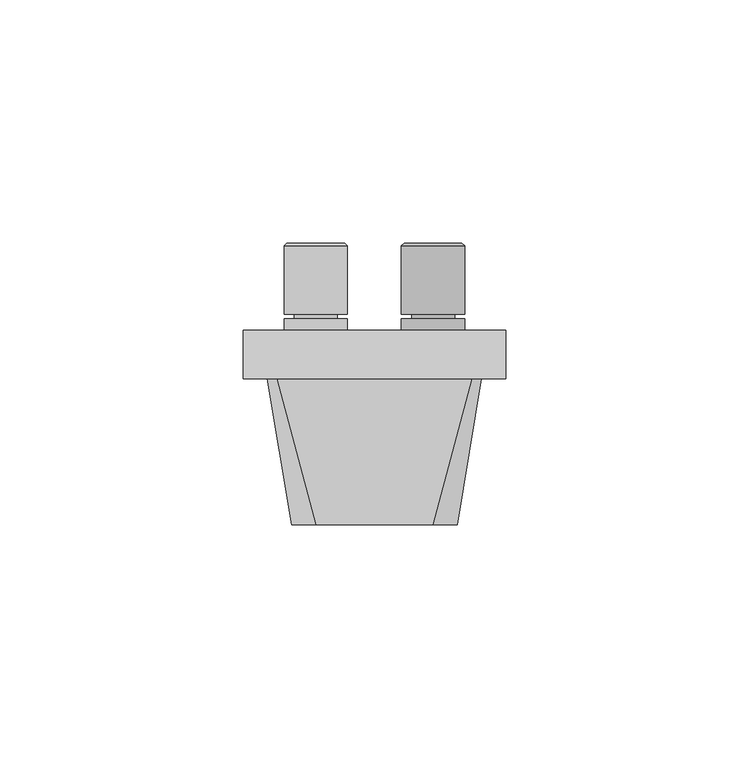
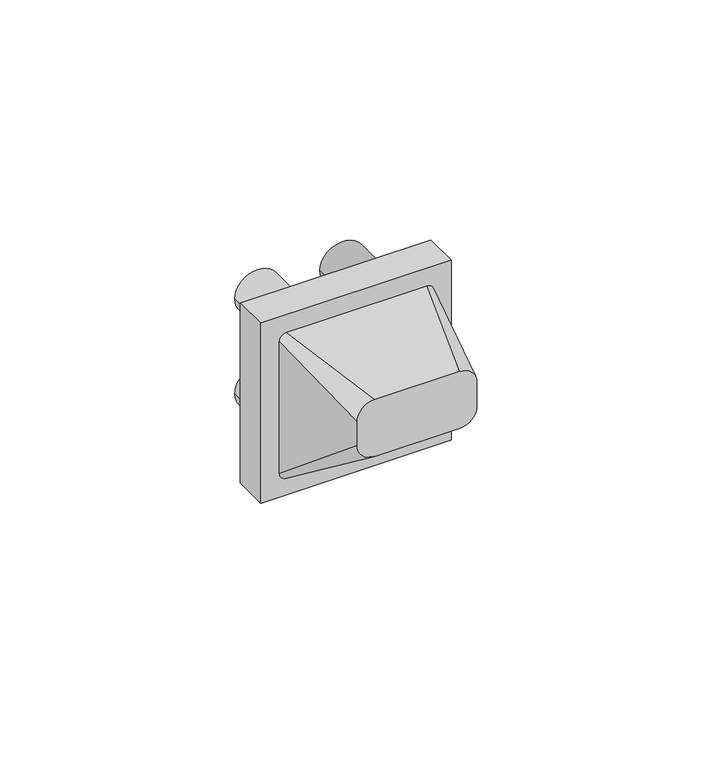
"""IFC4 building model written with IfcOpenShell, lengths in millimetres: proxy geometry, IEK_Brite_Механизм розетки мультимедийной : АС_РА10-БрА."""

from ifc_helpers import new_model, si_unit, frame, origin, place, context, project, spatial, polyline, circle_curve, source, transform, mapped, element, save
from ifc_brep_helpers import plane_surface, cylinder_surface, revolved_surface, spline_surface, advanced_brep


def electrical_fixtures_43cedca7(model_context):
    return source(origin(), model_context, "Body", "AdvancedBrep", [
        advanced_brep(
        [(-27.0, 10.0, 27.0), (27.0, 10.0, 27.0), (27.0, 10.0, -27.0), (-27.0, 10.0, -27.0), (19.0620735, 10.0, -13.75), (5.0620735, 10.0, -13.75), (-5.0620735, 10.0, -13.75), (-19.0620735, 10.0, -13.75), (19.0620735, 10.0, 14.7159622), (5.0620735, 10.0, 14.7159622), (-5.0620735, 10.0, 14.7159622), (-19.0620735, 10.0, 14.7159622), (-27.0, 0.0, 27.0), (-27.0, 0.0, -27.0), (27.0, 0.0, -27.0), (27.0, 0.0, 27.0), (5.0620735, 3.865818, 14.7159622), (19.0620735, 3.865818, 14.7159622), (-19.0620735, 3.865818, 14.7159622), (-5.0620735, 3.865818, 14.7159622), (5.0620735, 3.865818, -13.75), (19.0620735, 3.865818, -13.75), (-19.0620735, 3.865818, -13.75), (-5.0620735, 3.865818, -13.75)],
        [
            (0, 1),
            (1, 2),
            (2, 3),
            (3, 0),
            (4, 5, circle_curve(frame((12.0620735, 10.0, -13.75), z_axis=(0.0, -1.0, 0.0), x_axis=(1.0, 0.0, 0.0)), 7.0)),
            (5, 4, circle_curve(frame((12.0620735, 10.0, -13.75), z_axis=(0.0, -1.0, 0.0), x_axis=(1.0, 0.0, 0.0)), 7.0)),
            (6, 7, circle_curve(frame((-12.0620735, 10.0, -13.75), z_axis=(0.0, -1.0, 0.0), x_axis=(1.0, 0.0, 0.0)), 7.0)),
            (7, 6, circle_curve(frame((-12.0620735, 10.0, -13.75), z_axis=(0.0, -1.0, 0.0), x_axis=(1.0, 0.0, 0.0)), 7.0)),
            (8, 9, circle_curve(frame((12.0620735, 10.0, 14.7159622), z_axis=(0.0, -1.0, 0.0), x_axis=(1.0, 0.0, 0.0)), 7.0)),
            (9, 8, circle_curve(frame((12.0620735, 10.0, 14.7159622), z_axis=(0.0, -1.0, 0.0), x_axis=(1.0, 0.0, 0.0)), 7.0)),
            (10, 11, circle_curve(frame((-12.0620735, 10.0, 14.7159622), z_axis=(0.0, -1.0, 0.0), x_axis=(1.0, 0.0, 0.0)), 7.0)),
            (11, 10, circle_curve(frame((-12.0620735, 10.0, 14.7159622), z_axis=(0.0, -1.0, 0.0), x_axis=(1.0, 0.0, 0.0)), 7.0)),
            (12, 13),
            (13, 14),
            (14, 15),
            (15, 12),
            (3, 13),
            (12, 0),
            (2, 14),
            (1, 15),
            (16, 17, circle_curve(frame((12.0620735, 3.865818, 14.7159622), z_axis=(0.0, 1.0, 0.0), x_axis=(1.0, 0.0, 0.0)), 7.0)),
            (17, 16, circle_curve(frame((12.0620735, 3.865818, 14.7159622), z_axis=(0.0, 1.0, 0.0), x_axis=(1.0, 0.0, 0.0)), 7.0)),
            (18, 19, circle_curve(frame((-12.0620735, 3.865818, 14.7159622), z_axis=(0.0, 1.0, 0.0), x_axis=(1.0, 0.0, 0.0)), 7.0)),
            (19, 18, circle_curve(frame((-12.0620735, 3.865818, 14.7159622), z_axis=(0.0, 1.0, 0.0), x_axis=(1.0, 0.0, 0.0)), 7.0)),
            (20, 21, circle_curve(frame((12.0620735, 3.865818, -13.75), z_axis=(0.0, 1.0, 0.0), x_axis=(1.0, 0.0, 0.0)), 7.0)),
            (21, 20, circle_curve(frame((12.0620735, 3.865818, -13.75), z_axis=(0.0, 1.0, 0.0), x_axis=(1.0, 0.0, 0.0)), 7.0)),
            (22, 23, circle_curve(frame((-12.0620735, 3.865818, -13.75), z_axis=(0.0, 1.0, 0.0), x_axis=(1.0, 0.0, 0.0)), 7.0)),
            (23, 22, circle_curve(frame((-12.0620735, 3.865818, -13.75), z_axis=(0.0, 1.0, 0.0), x_axis=(1.0, 0.0, 0.0)), 7.0)),
            (16, 9),
            (8, 17),
            (18, 11),
            (10, 19),
            (20, 5),
            (4, 21),
            (22, 7),
            (6, 23),
        ],
        [
            plane_surface(frame((-27.0, 10.0, -27.0), z_axis=(0.0, 1.0, 0.0), x_axis=(0.0, 0.0, 1.0))),
            plane_surface(frame((-27.0, 0.0, -27.0), z_axis=(0.0, -1.0, 0.0), x_axis=(0.0, 0.0, -1.0))),
            plane_surface(frame((-27.0, 0.0, 27.0), z_axis=(-1.0, 0.0, 0.0), x_axis=(0.0, 1.0, 0.0))),
            plane_surface(frame((-27.0, 0.0, -27.0), z_axis=(0.0, 0.0, -1.0), x_axis=(0.0, 1.0, 0.0))),
            plane_surface(frame((27.0, 0.0, -27.0), z_axis=(1.0, 0.0, 0.0), x_axis=(0.0, 1.0, 0.0))),
            plane_surface(frame((27.0, 0.0, 27.0), z_axis=(0.0, 0.0, 1.0), x_axis=(0.0, 1.0, 0.0))),
            plane_surface(frame((19.0620735, 3.865818, 14.7159622), z_axis=(0.0, 1.0, 0.0), x_axis=(0.0, 0.0, 1.0))),
            revolved_surface(polyline([(19.0620735, 10.0, 14.7159622), (19.0620735, 3.865818, 14.7159622)]), (12.0620735, 3.865818, 14.7159622), (0.0, 1.0, 0.0)),
            revolved_surface(polyline([(-5.0620735, 10.0, 14.7159622), (-5.0620735, 3.865818, 14.7159622)]), (-12.0620735, 10.0, 14.7159622), (0.0, 1.0, 0.0)),
            revolved_surface(polyline([(19.0620735, 10.0, -13.75), (19.0620735, 3.865818, -13.75)]), (12.0620735, 10.0, -13.75), (0.0, 1.0, 0.0)),
            revolved_surface(polyline([(-5.0620735, 10.0, -13.75), (-5.0620735, 3.865818, -13.75)]), (-12.0620735, 10.0, -13.75), (0.0, 1.0, 0.0)),
        ],
        [
            (0, [[1, 2, 3, 4], [5, 6], [7, 8], [9, 10], [11, 12]]),
            (1, [[13, 14, 15, 16]]),
            (2, [[-4, 17, -13, 18]]),
            (3, [[-3, 19, -14, -17]]),
            (4, [[-2, 20, -15, -19]]),
            (5, [[-1, -18, -16, -20]]),
            (6, [[21, 22]]),
            (6, [[23, 24]]),
            (6, [[25, 26]]),
            (6, [[27, 28]]),
            (7, [[-21, 29, -9, 30]]),
            (7, [[-22, -30, -10, -29]]),
            (8, [[-23, 31, -11, 32]]),
            (8, [[-24, -32, -12, -31]]),
            (9, [[-25, 33, -5, 34]]),
            (9, [[-26, -34, -6, -33]]),
            (10, [[-27, 35, -7, 36]]),
            (10, [[-28, -36, -8, -35]]),
        ],
    ),
        advanced_brep(
        [(-8.6401103, 10.0, -13.75), (-15.4840366, 10.0, -13.75), (-12.0620735, 10.0, -13.75), (-8.6401103, 27.9463072, -13.75), (-15.4840366, 27.9463072, -13.75), (-6.1425627, 27.9463072, -13.75), (-17.9815842, 27.9463072, -13.75), (-5.5708837, 27.3746282, -13.75), (-18.5532632, 27.3746282, -13.75), (-5.5708837, 13.294806, -13.75), (-18.5532632, 13.294806, -13.75), (-7.6404981, 13.294806, -13.75), (-16.4836488, 13.294806, -13.75), (-7.6404981, 12.4143578, -13.75), (-16.4836488, 12.4143578, -13.75), (-5.5708837, 12.4143578, -13.75), (-18.5532632, 12.4143578, -13.75), (-5.5708837, 3.865818, -13.75), (-18.5532632, 3.865818, -13.75), (-12.0620735, 3.865818, -13.75)],
        [
            (0, 1, circle_curve(frame((-12.0620735, 10.0, -13.75), z_axis=(0.0, 1.0, 0.0), x_axis=(-1.0, 0.0, 0.0)), 3.4219631)),
            (1, 2),
            (2, 0),
            (1, 0, circle_curve(frame((-12.0620735, 10.0, -13.75), z_axis=(0.0, 1.0, 0.0), x_axis=(-1.0, 0.0, 0.0)), 3.4219631)),
            (3, 4, circle_curve(frame((-12.0620735, 27.9463072, -13.75), z_axis=(0.0, 1.0, 0.0), x_axis=(-1.0, 0.0, 0.0)), 3.4219631)),
            (4, 1),
            (0, 3),
            (4, 3, circle_curve(frame((-12.0620735, 27.9463072, -13.75), z_axis=(0.0, 1.0, 0.0), x_axis=(-1.0, 0.0, 0.0)), 3.4219631)),
            (5, 6, circle_curve(frame((-12.0620735, 27.9463072, -13.75), z_axis=(0.0, 1.0, 0.0), x_axis=(-1.0, 0.0, 0.0)), 5.9195108)),
            (6, 4),
            (3, 5),
            (6, 5, circle_curve(frame((-12.0620735, 27.9463072, -13.75), z_axis=(0.0, 1.0, 0.0), x_axis=(-1.0, 0.0, 0.0)), 5.9195108)),
            (7, 8, circle_curve(frame((-12.0620735, 27.3746282, -13.75), z_axis=(0.0, 1.0, 0.0), x_axis=(-1.0, 0.0, 0.0)), 6.4911898)),
            (8, 6),
            (5, 7),
            (8, 7, circle_curve(frame((-12.0620735, 27.3746282, -13.75), z_axis=(0.0, 1.0, 0.0), x_axis=(-1.0, 0.0, 0.0)), 6.4911898)),
            (9, 10, circle_curve(frame((-12.0620735, 13.294806, -13.75), z_axis=(0.0, 1.0, 0.0), x_axis=(-1.0, 0.0, 0.0)), 6.4911898)),
            (10, 8),
            (7, 9),
            (10, 9, circle_curve(frame((-12.0620735, 13.294806, -13.75), z_axis=(0.0, 1.0, 0.0), x_axis=(-1.0, 0.0, 0.0)), 6.4911898)),
            (11, 12, circle_curve(frame((-12.0620735, 13.294806, -13.75), z_axis=(0.0, 1.0, 0.0), x_axis=(-1.0, 0.0, 0.0)), 4.4215754)),
            (12, 10),
            (9, 11),
            (12, 11, circle_curve(frame((-12.0620735, 13.294806, -13.75), z_axis=(0.0, 1.0, 0.0), x_axis=(-1.0, 0.0, 0.0)), 4.4215754)),
            (13, 14, circle_curve(frame((-12.0620735, 12.4143578, -13.75), z_axis=(0.0, 1.0, 0.0), x_axis=(-1.0, 0.0, 0.0)), 4.4215754)),
            (14, 12),
            (11, 13),
            (14, 13, circle_curve(frame((-12.0620735, 12.4143578, -13.75), z_axis=(0.0, 1.0, 0.0), x_axis=(-1.0, 0.0, 0.0)), 4.4215754)),
            (15, 16, circle_curve(frame((-12.0620735, 12.4143578, -13.75), z_axis=(0.0, 1.0, 0.0), x_axis=(-1.0, 0.0, 0.0)), 6.4911898)),
            (16, 14),
            (13, 15),
            (16, 15, circle_curve(frame((-12.0620735, 12.4143578, -13.75), z_axis=(0.0, 1.0, 0.0), x_axis=(-1.0, 0.0, 0.0)), 6.4911898)),
            (17, 18, circle_curve(frame((-12.0620735, 3.865818, -13.75), z_axis=(0.0, 1.0, 0.0), x_axis=(-1.0, 0.0, 0.0)), 6.4911898)),
            (18, 16),
            (15, 17),
            (18, 17, circle_curve(frame((-12.0620735, 3.865818, -13.75), z_axis=(0.0, 1.0, 0.0), x_axis=(-1.0, 0.0, 0.0)), 6.4911898)),
            (19, 18),
            (17, 19),
        ],
        [
            plane_surface(frame((-12.0620735, 10.0, -13.75), z_axis=(0.0, 1.0, 0.0), x_axis=(-1.0, 0.0, 0.0))),
            revolved_surface(polyline([(-15.4840366, 10.0, -13.75), (-15.4840366, 27.9463072, -13.75)]), (-12.0620735, 3.865818, -13.75), (0.0, -1.0, 0.0)),
            plane_surface(frame((-12.0620735, 27.9463072, -13.75), z_axis=(0.0, 1.0, 0.0), x_axis=(-1.0, 0.0, 0.0))),
            revolved_surface(polyline([(-17.9815842, 27.9463072, -13.75), (-18.5532632, 27.3746282, -13.75)]), (-12.0620735, 3.865818, -13.75), (0.0, -1.0, 0.0)),
            cylinder_surface(frame((-12.0620735, 3.865818, -13.75), z_axis=(0.0, -1.0, 0.0), x_axis=(-1.0, 0.0, 0.0)), 6.4911898),
            plane_surface(frame((-12.0620735, 13.294806, -13.75), z_axis=(0.0, -1.0, 0.0), x_axis=(-1.0, 0.0, 0.0))),
            cylinder_surface(frame((-12.0620735, 3.865818, -13.75), z_axis=(0.0, -1.0, 0.0), x_axis=(-1.0, 0.0, 0.0)), 4.4215754),
            plane_surface(frame((-12.0620735, 12.4143578, -13.75), z_axis=(0.0, 1.0, 0.0), x_axis=(-1.0, 0.0, 0.0))),
            plane_surface(frame((-12.0620735, 3.865818, -13.75), z_axis=(0.0, -1.0, 0.0), x_axis=(-1.0, 0.0, 0.0))),
        ],
        [
            (0, [[1, 2, 3]]),
            (0, [[4, -3, -2]]),
            (1, [[5, 6, -1, 7]]),
            (1, [[8, -7, -4, -6]]),
            (2, [[9, 10, -5, 11]]),
            (2, [[12, -11, -8, -10]]),
            (3, [[13, 14, -9, 15]]),
            (3, [[16, -15, -12, -14]]),
            (4, [[17, 18, -13, 19]]),
            (4, [[20, -19, -16, -18]]),
            (5, [[21, 22, -17, 23]]),
            (5, [[24, -23, -20, -22]]),
            (6, [[25, 26, -21, 27]]),
            (6, [[28, -27, -24, -26]]),
            (7, [[29, 30, -25, 31]]),
            (7, [[32, -31, -28, -30]]),
            (4, [[33, 34, -29, 35]]),
            (4, [[36, -35, -32, -34]]),
            (8, [[37, -33, 38]]),
            (8, [[-38, -36, -37]]),
        ],
    ),
        advanced_brep(
        [(12.0620735, 10.0, -13.75), (15.4840366, 10.0, -13.75), (8.6401103, 10.0, -13.75), (15.4840366, 27.9463072, -13.75), (8.6401103, 27.9463072, -13.75), (17.9815842, 27.9463072, -13.75), (6.1425627, 27.9463072, -13.75), (18.5532632, 27.3746282, -13.75), (5.5708837, 27.3746282, -13.75), (18.5532632, 13.294806, -13.75), (5.5708837, 13.294806, -13.75), (16.4836488, 13.294806, -13.75), (7.6404981, 13.294806, -13.75), (16.4836488, 12.4143578, -13.75), (7.6404981, 12.4143578, -13.75), (18.5532632, 12.4143578, -13.75), (5.5708837, 12.4143578, -13.75), (18.5532632, 3.865818, -13.75), (5.5708837, 3.865818, -13.75), (12.0620735, 3.865818, -13.75)],
        [
            (0, 1),
            (1, 2, circle_curve(frame((12.0620735, 10.0, -13.75), z_axis=(0.0, 1.0, 0.0), x_axis=(1.0, 0.0, 0.0)), 3.4219631)),
            (2, 0),
            (2, 1, circle_curve(frame((12.0620735, 10.0, -13.75), z_axis=(0.0, 1.0, 0.0), x_axis=(1.0, 0.0, 0.0)), 3.4219631)),
            (1, 3),
            (3, 4, circle_curve(frame((12.0620735, 27.9463072, -13.75), z_axis=(0.0, 1.0, 0.0), x_axis=(1.0, 0.0, 0.0)), 3.4219631)),
            (4, 2),
            (4, 3, circle_curve(frame((12.0620735, 27.9463072, -13.75), z_axis=(0.0, 1.0, 0.0), x_axis=(1.0, 0.0, 0.0)), 3.4219631)),
            (3, 5),
            (5, 6, circle_curve(frame((12.0620735, 27.9463072, -13.75), z_axis=(0.0, 1.0, 0.0), x_axis=(1.0, 0.0, 0.0)), 5.9195108)),
            (6, 4),
            (6, 5, circle_curve(frame((12.0620735, 27.9463072, -13.75), z_axis=(0.0, 1.0, 0.0), x_axis=(1.0, 0.0, 0.0)), 5.9195108)),
            (5, 7),
            (7, 8, circle_curve(frame((12.0620735, 27.3746282, -13.75), z_axis=(0.0, 1.0, 0.0), x_axis=(1.0, 0.0, 0.0)), 6.4911898)),
            (8, 6),
            (8, 7, circle_curve(frame((12.0620735, 27.3746282, -13.75), z_axis=(0.0, 1.0, 0.0), x_axis=(1.0, 0.0, 0.0)), 6.4911898)),
            (7, 9),
            (9, 10, circle_curve(frame((12.0620735, 13.294806, -13.75), z_axis=(0.0, 1.0, 0.0), x_axis=(1.0, 0.0, 0.0)), 6.4911898)),
            (10, 8),
            (10, 9, circle_curve(frame((12.0620735, 13.294806, -13.75), z_axis=(0.0, 1.0, 0.0), x_axis=(1.0, 0.0, 0.0)), 6.4911898)),
            (9, 11),
            (11, 12, circle_curve(frame((12.0620735, 13.294806, -13.75), z_axis=(0.0, 1.0, 0.0), x_axis=(1.0, 0.0, 0.0)), 4.4215754)),
            (12, 10),
            (12, 11, circle_curve(frame((12.0620735, 13.294806, -13.75), z_axis=(0.0, 1.0, 0.0), x_axis=(1.0, 0.0, 0.0)), 4.4215754)),
            (11, 13),
            (13, 14, circle_curve(frame((12.0620735, 12.4143578, -13.75), z_axis=(0.0, 1.0, 0.0), x_axis=(1.0, 0.0, 0.0)), 4.4215754)),
            (14, 12),
            (14, 13, circle_curve(frame((12.0620735, 12.4143578, -13.75), z_axis=(0.0, 1.0, 0.0), x_axis=(1.0, 0.0, 0.0)), 4.4215754)),
            (13, 15),
            (15, 16, circle_curve(frame((12.0620735, 12.4143578, -13.75), z_axis=(0.0, 1.0, 0.0), x_axis=(1.0, 0.0, 0.0)), 6.4911898)),
            (16, 14),
            (16, 15, circle_curve(frame((12.0620735, 12.4143578, -13.75), z_axis=(0.0, 1.0, 0.0), x_axis=(1.0, 0.0, 0.0)), 6.4911898)),
            (15, 17),
            (17, 18, circle_curve(frame((12.0620735, 3.865818, -13.75), z_axis=(0.0, 1.0, 0.0), x_axis=(1.0, 0.0, 0.0)), 6.4911898)),
            (18, 16),
            (18, 17, circle_curve(frame((12.0620735, 3.865818, -13.75), z_axis=(0.0, 1.0, 0.0), x_axis=(1.0, 0.0, 0.0)), 6.4911898)),
            (17, 19),
            (19, 18),
        ],
        [
            plane_surface(frame((12.0620735, 10.0, -13.75), z_axis=(0.0, 1.0, 0.0), x_axis=(1.0, 0.0, 0.0))),
            revolved_surface(polyline([(15.4840366, 27.9463072, -13.75), (15.4840366, 10.0, -13.75)]), (12.0620735, 3.865818, -13.75), (0.0, 1.0, 0.0)),
            plane_surface(frame((12.0620735, 27.9463072, -13.75), z_axis=(0.0, 1.0, 0.0), x_axis=(1.0, 0.0, 0.0))),
            revolved_surface(polyline([(18.5532632, 27.3746282, -13.75), (17.9815842, 27.9463072, -13.75)]), (12.0620735, 3.865818, -13.75), (0.0, 1.0, 0.0)),
            cylinder_surface(frame((12.0620735, 3.865818, -13.75), z_axis=(0.0, 1.0, 0.0), x_axis=(1.0, 0.0, 0.0)), 6.4911898),
            plane_surface(frame((12.0620735, 13.294806, -13.75), z_axis=(0.0, -1.0, 0.0), x_axis=(1.0, 0.0, 0.0))),
            cylinder_surface(frame((12.0620735, 3.865818, -13.75), z_axis=(0.0, 1.0, 0.0), x_axis=(1.0, 0.0, 0.0)), 4.4215754),
            plane_surface(frame((12.0620735, 12.4143578, -13.75), z_axis=(0.0, 1.0, 0.0), x_axis=(1.0, 0.0, 0.0))),
            plane_surface(frame((12.0620735, 3.865818, -13.75), z_axis=(0.0, -1.0, 0.0), x_axis=(1.0, 0.0, 0.0))),
        ],
        [
            (0, [[1, 2, 3]]),
            (0, [[-3, 4, -1]]),
            (1, [[-2, 5, 6, 7]]),
            (1, [[-4, -7, 8, -5]]),
            (2, [[-6, 9, 10, 11]]),
            (2, [[-8, -11, 12, -9]]),
            (3, [[-10, 13, 14, 15]]),
            (3, [[-12, -15, 16, -13]]),
            (4, [[-14, 17, 18, 19]]),
            (4, [[-16, -19, 20, -17]]),
            (5, [[-18, 21, 22, 23]]),
            (5, [[-20, -23, 24, -21]]),
            (6, [[-22, 25, 26, 27]]),
            (6, [[-24, -27, 28, -25]]),
            (7, [[-26, 29, 30, 31]]),
            (7, [[-28, -31, 32, -29]]),
            (4, [[-30, 33, 34, 35]]),
            (4, [[-32, -35, 36, -33]]),
            (8, [[-34, 37, 38]]),
            (8, [[-36, -38, -37]]),
        ],
    ),
        advanced_brep(
        [(-8.6401103, 10.0, 14.7159622), (-15.4840366, 10.0, 14.7159622), (-12.0620735, 10.0, 14.7159622), (-8.6401103, 27.9463072, 14.7159622), (-15.4840366, 27.9463072, 14.7159622), (-6.1425627, 27.9463072, 14.7159622), (-17.9815842, 27.9463072, 14.7159622), (-5.5708837, 27.3746282, 14.7159622), (-18.5532632, 27.3746282, 14.7159622), (-5.5708837, 13.294806, 14.7159622), (-18.5532632, 13.294806, 14.7159622), (-7.6404981, 13.294806, 14.7159622), (-16.4836488, 13.294806, 14.7159622), (-7.6404981, 12.4143578, 14.7159622), (-16.4836488, 12.4143578, 14.7159622), (-5.5708837, 12.4143578, 14.7159622), (-18.5532632, 12.4143578, 14.7159622), (-5.5708837, 3.865818, 14.7159622), (-18.5532632, 3.865818, 14.7159622), (-12.0620735, 3.865818, 14.7159622)],
        [
            (0, 1, circle_curve(frame((-12.0620735, 10.0, 14.7159622), z_axis=(0.0, 1.0, 0.0), x_axis=(-1.0, 0.0, 0.0)), 3.4219631)),
            (1, 2),
            (2, 0),
            (1, 0, circle_curve(frame((-12.0620735, 10.0, 14.7159622), z_axis=(0.0, 1.0, 0.0), x_axis=(-1.0, 0.0, 0.0)), 3.4219631)),
            (3, 4, circle_curve(frame((-12.0620735, 27.9463072, 14.7159622), z_axis=(0.0, 1.0, 0.0), x_axis=(-1.0, 0.0, 0.0)), 3.4219631)),
            (4, 1),
            (0, 3),
            (4, 3, circle_curve(frame((-12.0620735, 27.9463072, 14.7159622), z_axis=(0.0, 1.0, 0.0), x_axis=(-1.0, 0.0, 0.0)), 3.4219631)),
            (5, 6, circle_curve(frame((-12.0620735, 27.9463072, 14.7159622), z_axis=(0.0, 1.0, 0.0), x_axis=(-1.0, 0.0, 0.0)), 5.9195108)),
            (6, 4),
            (3, 5),
            (6, 5, circle_curve(frame((-12.0620735, 27.9463072, 14.7159622), z_axis=(0.0, 1.0, 0.0), x_axis=(-1.0, 0.0, 0.0)), 5.9195108)),
            (7, 8, circle_curve(frame((-12.0620735, 27.3746282, 14.7159622), z_axis=(0.0, 1.0, 0.0), x_axis=(-1.0, 0.0, 0.0)), 6.4911898)),
            (8, 6),
            (5, 7),
            (8, 7, circle_curve(frame((-12.0620735, 27.3746282, 14.7159622), z_axis=(0.0, 1.0, 0.0), x_axis=(-1.0, 0.0, 0.0)), 6.4911898)),
            (9, 10, circle_curve(frame((-12.0620735, 13.294806, 14.7159622), z_axis=(0.0, 1.0, 0.0), x_axis=(-1.0, 0.0, 0.0)), 6.4911898)),
            (10, 8),
            (7, 9),
            (10, 9, circle_curve(frame((-12.0620735, 13.294806, 14.7159622), z_axis=(0.0, 1.0, 0.0), x_axis=(-1.0, 0.0, 0.0)), 6.4911898)),
            (11, 12, circle_curve(frame((-12.0620735, 13.294806, 14.7159622), z_axis=(0.0, 1.0, 0.0), x_axis=(-1.0, 0.0, 0.0)), 4.4215754)),
            (12, 10),
            (9, 11),
            (12, 11, circle_curve(frame((-12.0620735, 13.294806, 14.7159622), z_axis=(0.0, 1.0, 0.0), x_axis=(-1.0, 0.0, 0.0)), 4.4215754)),
            (13, 14, circle_curve(frame((-12.0620735, 12.4143578, 14.7159622), z_axis=(0.0, 1.0, 0.0), x_axis=(-1.0, 0.0, 0.0)), 4.4215754)),
            (14, 12),
            (11, 13),
            (14, 13, circle_curve(frame((-12.0620735, 12.4143578, 14.7159622), z_axis=(0.0, 1.0, 0.0), x_axis=(-1.0, 0.0, 0.0)), 4.4215754)),
            (15, 16, circle_curve(frame((-12.0620735, 12.4143578, 14.7159622), z_axis=(0.0, 1.0, 0.0), x_axis=(-1.0, 0.0, 0.0)), 6.4911898)),
            (16, 14),
            (13, 15),
            (16, 15, circle_curve(frame((-12.0620735, 12.4143578, 14.7159622), z_axis=(0.0, 1.0, 0.0), x_axis=(-1.0, 0.0, 0.0)), 6.4911898)),
            (17, 18, circle_curve(frame((-12.0620735, 3.865818, 14.7159622), z_axis=(0.0, 1.0, 0.0), x_axis=(-1.0, 0.0, 0.0)), 6.4911898)),
            (18, 16),
            (15, 17),
            (18, 17, circle_curve(frame((-12.0620735, 3.865818, 14.7159622), z_axis=(0.0, 1.0, 0.0), x_axis=(-1.0, 0.0, 0.0)), 6.4911898)),
            (19, 18),
            (17, 19),
        ],
        [
            plane_surface(frame((-12.0620735, 10.0, 14.7159622), z_axis=(0.0, 1.0, 0.0), x_axis=(-1.0, 0.0, 0.0))),
            revolved_surface(polyline([(-15.4840366, 10.0, 14.7159622), (-15.4840366, 27.9463072, 14.7159622)]), (-12.0620735, 3.865818, 14.7159622), (0.0, -1.0, 0.0)),
            plane_surface(frame((-12.0620735, 27.9463072, 14.7159622), z_axis=(0.0, 1.0, 0.0), x_axis=(-1.0, 0.0, 0.0))),
            revolved_surface(polyline([(-17.9815842, 27.9463072, 14.7159622), (-18.5532632, 27.3746282, 14.7159622)]), (-12.0620735, 3.865818, 14.7159622), (0.0, -1.0, 0.0)),
            cylinder_surface(frame((-12.0620735, 3.865818, 14.7159622), z_axis=(0.0, -1.0, 0.0), x_axis=(-1.0, 0.0, 0.0)), 6.4911898),
            plane_surface(frame((-12.0620735, 13.294806, 14.7159622), z_axis=(0.0, -1.0, 0.0), x_axis=(-1.0, 0.0, 0.0))),
            cylinder_surface(frame((-12.0620735, 3.865818, 14.7159622), z_axis=(0.0, -1.0, 0.0), x_axis=(-1.0, 0.0, 0.0)), 4.4215754),
            plane_surface(frame((-12.0620735, 12.4143578, 14.7159622), z_axis=(0.0, 1.0, 0.0), x_axis=(-1.0, 0.0, 0.0))),
            plane_surface(frame((-12.0620735, 3.865818, 14.7159622), z_axis=(0.0, -1.0, 0.0), x_axis=(-1.0, 0.0, 0.0))),
        ],
        [
            (0, [[1, 2, 3]]),
            (0, [[4, -3, -2]]),
            (1, [[5, 6, -1, 7]]),
            (1, [[8, -7, -4, -6]]),
            (2, [[9, 10, -5, 11]]),
            (2, [[12, -11, -8, -10]]),
            (3, [[13, 14, -9, 15]]),
            (3, [[16, -15, -12, -14]]),
            (4, [[17, 18, -13, 19]]),
            (4, [[20, -19, -16, -18]]),
            (5, [[21, 22, -17, 23]]),
            (5, [[24, -23, -20, -22]]),
            (6, [[25, 26, -21, 27]]),
            (6, [[28, -27, -24, -26]]),
            (7, [[29, 30, -25, 31]]),
            (7, [[32, -31, -28, -30]]),
            (4, [[33, 34, -29, 35]]),
            (4, [[36, -35, -32, -34]]),
            (8, [[37, -33, 38]]),
            (8, [[-38, -36, -37]]),
        ],
    ),
        advanced_brep(
        [(12.0620735, 10.0, 14.7159622), (15.4840366, 10.0, 14.7159622), (8.6401103, 10.0, 14.7159622), (15.4840366, 27.9463072, 14.7159622), (8.6401103, 27.9463072, 14.7159622), (17.9815842, 27.9463072, 14.7159622), (6.1425627, 27.9463072, 14.7159622), (18.5532632, 27.3746282, 14.7159622), (5.5708837, 27.3746282, 14.7159622), (18.5532632, 13.294806, 14.7159622), (5.5708837, 13.294806, 14.7159622), (16.4836488, 13.294806, 14.7159622), (7.6404981, 13.294806, 14.7159622), (16.4836488, 12.4143578, 14.7159622), (7.6404981, 12.4143578, 14.7159622), (18.5532632, 12.4143578, 14.7159622), (5.5708837, 12.4143578, 14.7159622), (18.5532632, 3.865818, 14.7159622), (5.5708837, 3.865818, 14.7159622), (12.0620735, 3.865818, 14.7159622)],
        [
            (0, 1),
            (1, 2, circle_curve(frame((12.0620735, 10.0, 14.7159622), z_axis=(0.0, 1.0, 0.0), x_axis=(1.0, 0.0, 0.0)), 3.4219631)),
            (2, 0),
            (2, 1, circle_curve(frame((12.0620735, 10.0, 14.7159622), z_axis=(0.0, 1.0, 0.0), x_axis=(1.0, 0.0, 0.0)), 3.4219631)),
            (1, 3),
            (3, 4, circle_curve(frame((12.0620735, 27.9463072, 14.7159622), z_axis=(0.0, 1.0, 0.0), x_axis=(1.0, 0.0, 0.0)), 3.4219631)),
            (4, 2),
            (4, 3, circle_curve(frame((12.0620735, 27.9463072, 14.7159622), z_axis=(0.0, 1.0, 0.0), x_axis=(1.0, 0.0, 0.0)), 3.4219631)),
            (3, 5),
            (5, 6, circle_curve(frame((12.0620735, 27.9463072, 14.7159622), z_axis=(0.0, 1.0, 0.0), x_axis=(1.0, 0.0, 0.0)), 5.9195108)),
            (6, 4),
            (6, 5, circle_curve(frame((12.0620735, 27.9463072, 14.7159622), z_axis=(0.0, 1.0, 0.0), x_axis=(1.0, 0.0, 0.0)), 5.9195108)),
            (5, 7),
            (7, 8, circle_curve(frame((12.0620735, 27.3746282, 14.7159622), z_axis=(0.0, 1.0, 0.0), x_axis=(1.0, 0.0, 0.0)), 6.4911898)),
            (8, 6),
            (8, 7, circle_curve(frame((12.0620735, 27.3746282, 14.7159622), z_axis=(0.0, 1.0, 0.0), x_axis=(1.0, 0.0, 0.0)), 6.4911898)),
            (7, 9),
            (9, 10, circle_curve(frame((12.0620735, 13.294806, 14.7159622), z_axis=(0.0, 1.0, 0.0), x_axis=(1.0, 0.0, 0.0)), 6.4911898)),
            (10, 8),
            (10, 9, circle_curve(frame((12.0620735, 13.294806, 14.7159622), z_axis=(0.0, 1.0, 0.0), x_axis=(1.0, 0.0, 0.0)), 6.4911898)),
            (9, 11),
            (11, 12, circle_curve(frame((12.0620735, 13.294806, 14.7159622), z_axis=(0.0, 1.0, 0.0), x_axis=(1.0, 0.0, 0.0)), 4.4215754)),
            (12, 10),
            (12, 11, circle_curve(frame((12.0620735, 13.294806, 14.7159622), z_axis=(0.0, 1.0, 0.0), x_axis=(1.0, 0.0, 0.0)), 4.4215754)),
            (11, 13),
            (13, 14, circle_curve(frame((12.0620735, 12.4143578, 14.7159622), z_axis=(0.0, 1.0, 0.0), x_axis=(1.0, 0.0, 0.0)), 4.4215754)),
            (14, 12),
            (14, 13, circle_curve(frame((12.0620735, 12.4143578, 14.7159622), z_axis=(0.0, 1.0, 0.0), x_axis=(1.0, 0.0, 0.0)), 4.4215754)),
            (13, 15),
            (15, 16, circle_curve(frame((12.0620735, 12.4143578, 14.7159622), z_axis=(0.0, 1.0, 0.0), x_axis=(1.0, 0.0, 0.0)), 6.4911898)),
            (16, 14),
            (16, 15, circle_curve(frame((12.0620735, 12.4143578, 14.7159622), z_axis=(0.0, 1.0, 0.0), x_axis=(1.0, 0.0, 0.0)), 6.4911898)),
            (15, 17),
            (17, 18, circle_curve(frame((12.0620735, 3.865818, 14.7159622), z_axis=(0.0, 1.0, 0.0), x_axis=(1.0, 0.0, 0.0)), 6.4911898)),
            (18, 16),
            (18, 17, circle_curve(frame((12.0620735, 3.865818, 14.7159622), z_axis=(0.0, 1.0, 0.0), x_axis=(1.0, 0.0, 0.0)), 6.4911898)),
            (17, 19),
            (19, 18),
        ],
        [
            plane_surface(frame((12.0620735, 10.0, 14.7159622), z_axis=(0.0, 1.0, 0.0), x_axis=(1.0, 0.0, 0.0))),
            revolved_surface(polyline([(15.4840366, 27.9463072, 14.7159622), (15.4840366, 10.0, 14.7159622)]), (12.0620735, 3.865818, 14.7159622), (0.0, 1.0, 0.0)),
            plane_surface(frame((12.0620735, 27.9463072, 14.7159622), z_axis=(0.0, 1.0, 0.0), x_axis=(1.0, 0.0, 0.0))),
            revolved_surface(polyline([(18.5532632, 27.3746282, 14.7159622), (17.9815842, 27.9463072, 14.7159622)]), (12.0620735, 3.865818, 14.7159622), (0.0, 1.0, 0.0)),
            cylinder_surface(frame((12.0620735, 3.865818, 14.7159622), z_axis=(0.0, 1.0, 0.0), x_axis=(1.0, 0.0, 0.0)), 6.4911898),
            plane_surface(frame((12.0620735, 13.294806, 14.7159622), z_axis=(0.0, -1.0, 0.0), x_axis=(1.0, 0.0, 0.0))),
            cylinder_surface(frame((12.0620735, 3.865818, 14.7159622), z_axis=(0.0, 1.0, 0.0), x_axis=(1.0, 0.0, 0.0)), 4.4215754),
            plane_surface(frame((12.0620735, 12.4143578, 14.7159622), z_axis=(0.0, 1.0, 0.0), x_axis=(1.0, 0.0, 0.0))),
            plane_surface(frame((12.0620735, 3.865818, 14.7159622), z_axis=(0.0, -1.0, 0.0), x_axis=(1.0, 0.0, 0.0))),
        ],
        [
            (0, [[1, 2, 3]]),
            (0, [[-3, 4, -1]]),
            (1, [[-2, 5, 6, 7]]),
            (1, [[-4, -7, 8, -5]]),
            (2, [[-6, 9, 10, 11]]),
            (2, [[-8, -11, 12, -9]]),
            (3, [[-10, 13, 14, 15]]),
            (3, [[-12, -15, 16, -13]]),
            (4, [[-14, 17, 18, 19]]),
            (4, [[-16, -19, 20, -17]]),
            (5, [[-18, 21, 22, 23]]),
            (5, [[-20, -23, 24, -21]]),
            (6, [[-22, 25, 26, 27]]),
            (6, [[-24, -27, 28, -25]]),
            (7, [[-26, 29, 30, 31]]),
            (7, [[-28, -31, 32, -29]]),
            (4, [[-30, 33, 34, 35]]),
            (4, [[-32, -35, 36, -33]]),
            (8, [[-34, 37, 38]]),
            (8, [[-36, -38, -37]]),
        ],
    ),
        advanced_brep(
        [(-12.0, -30.0, 17.0), (-17.0, -30.0, 12.0), (-17.0, -30.0, 5.0), (-12.0, -30.0, 0.0), (12.0, -30.0, 0.0), (17.0, -30.0, 5.0), (17.0, -30.0, 12.0), (12.0, -30.0, 17.0), (-20.0, 0.0, 22.0), (20.0, 0.0, 22.0), (22.0, 0.0, 20.0), (22.0, 0.0, -20.0), (20.0, 0.0, -22.0), (-20.0, 0.0, -22.0), (-22.0, 0.0, -20.0), (-22.0, 0.0, 20.0)],
        [
            (0, 1, circle_curve(frame((-12.0, -30.0, 12.0), z_axis=(0.0, -1.0, 0.0), x_axis=(1.0, 0.0, 0.0)), 5.0)),
            (1, 2),
            (2, 3, circle_curve(frame((-12.0, -30.0, 5.0), z_axis=(0.0, -1.0, 0.0), x_axis=(1.0, 0.0, 0.0)), 5.0)),
            (3, 4),
            (4, 5, circle_curve(frame((12.0, -30.0, 5.0), z_axis=(0.0, -1.0, 0.0), x_axis=(1.0, 0.0, 0.0)), 5.0)),
            (5, 6),
            (6, 7, circle_curve(frame((12.0, -30.0, 12.0), z_axis=(0.0, -1.0, 0.0), x_axis=(1.0, 0.0, 0.0)), 5.0)),
            (7, 0),
            (8, 9),
            (9, 10, circle_curve(frame((20.0, 0.0, 20.0), z_axis=(0.0, 1.0, 0.0), x_axis=(1.0, 0.0, 0.0)), 2.0)),
            (10, 11),
            (11, 12, circle_curve(frame((20.0, 0.0, -20.0), z_axis=(0.0, 1.0, 0.0), x_axis=(1.0, 0.0, 0.0)), 2.0)),
            (12, 13),
            (13, 14, circle_curve(frame((-20.0, 0.0, -20.0), z_axis=(0.0, 1.0, 0.0), x_axis=(1.0, 0.0, 0.0)), 2.0)),
            (14, 15),
            (15, 8, circle_curve(frame((-20.0, 0.0, 20.0), z_axis=(0.0, 1.0, 0.0), x_axis=(1.0, 0.0, 0.0)), 2.0)),
            (8, 0),
            (7, 9),
            (6, 10),
            (5, 11),
            (4, 12),
            (3, 13),
            (2, 14),
            (1, 15),
        ],
        [
            plane_surface(frame((0.0, -30.0, 8.5), z_axis=(0.0, -1.0, 0.0), x_axis=(-1.0, 0.0, 0.0))),
            plane_surface(frame((0.0, 0.0, 0.0), z_axis=(0.0, 1.0, 0.0), x_axis=(-1.0, 0.0, 0.0))),
            plane_surface(frame((0.0, 0.0, 22.0), z_axis=(0.0, -0.16439898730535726, 0.9863939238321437), x_axis=(-1.0, 0.0, 0.0))),
            spline_surface(2, 1, [[(22.0, 0.0, 20.0), (17.0, -30.0, 12.0)], [(22.0, 0.0, 22.0), (17.0, -30.0, 17.0)], [(20.0, 0.0, 22.0), (12.0, -30.0, 17.0)]], [3, 3], [2, 2], [0.0, 1.0], [0.0, 1.0], weights=[[1.0, 1.0], [0.7071067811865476, 0.7071067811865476], [1.0, 1.0]]),
            plane_surface(frame((22.0, 0.0, 0.0), z_axis=(0.9863939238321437, -0.1643989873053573, 0.0), x_axis=(0.0, 0.0, 1.0))),
            spline_surface(2, 1, [[(20.0, 0.0, -22.0), (12.0, -30.0, 0.0)], [(22.0, 0.0, -22.0), (17.0, -30.0, 0.0)], [(22.0, 0.0, -20.0), (17.0, -30.0, 5.0)]], [3, 3], [2, 2], [0.0, 1.0], [0.0, 1.0], weights=[[1.0, 1.0], [0.7071067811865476, 0.7071067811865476], [1.0, 1.0]]),
            plane_surface(frame((0.0, 0.0, -22.0), z_axis=(0.0, -0.591363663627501, -0.8064049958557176), x_axis=(1.0, 0.0, 0.0))),
            spline_surface(2, 1, [[(-22.0, 0.0, -20.0), (-17.0, -30.0, 5.0)], [(-22.0, 0.0, -22.0), (-17.0, -30.0, 0.0)], [(-20.0, 0.0, -22.0), (-12.0, -30.0, 0.0)]], [3, 3], [2, 2], [0.0, 1.0], [0.0, 1.0], weights=[[1.0, 1.0], [0.7071067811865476, 0.7071067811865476], [1.0, 1.0]]),
            plane_surface(frame((-22.0, 0.0, 0.0), z_axis=(-0.9863939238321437, -0.1643989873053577, 0.0), x_axis=(0.0, 0.0, -1.0))),
            spline_surface(2, 1, [[(-20.0, 0.0, 22.0), (-12.0, -30.0, 17.0)], [(-22.0, 0.0, 22.0), (-17.0, -30.0, 17.0)], [(-22.0, 0.0, 20.0), (-17.0, -30.0, 12.0)]], [3, 3], [2, 2], [0.0, 1.0], [0.0, 1.0], weights=[[1.0, 1.0], [0.7071067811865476, 0.7071067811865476], [1.0, 1.0]]),
        ],
        [
            (0, [[1, 2, 3, 4, 5, 6, 7, 8]]),
            (1, [[9, 10, 11, 12, 13, 14, 15, 16]]),
            (2, [[-9, 17, -8, 18]]),
            (3, [[-10, -18, -7, 19]]),
            (4, [[-11, -19, -6, 20]]),
            (5, [[-12, -20, -5, 21]]),
            (6, [[-13, -21, -4, 22]]),
            (7, [[-14, -22, -3, 23]]),
            (8, [[-15, -23, -2, 24]]),
            (9, [[-16, -24, -1, -17]]),
        ],
    ),
    ])


if __name__ == "__main__":
    model = new_model("IFC4")
    model_context = context("Model", 3, world=origin())
    ifc_project = project(units=[si_unit("LENGTHUNIT", "METRE", prefix="MILLI")], contexts=[model_context])
    site = spatial("IfcSite", under=ifc_project)
    building = spatial("IfcBuilding", under=site)
    placement = place(None, origin())
    electrical_fixtures_shape = electrical_fixtures_43cedca7(model_context)
    element("IfcBuildingElementProxy", 1, Name="IEK_Brite_Механизм розетки мультимедийной : АС_РА10-БрА", ObjectType="IEK_Brite_Механизм розетки мультимедийной : АС_РА10-БрА", at=placement, inside=building, context=model_context, shape_type="MappedRepresentation", body=[
        mapped(electrical_fixtures_shape, transform((0.0, 0.0, 0.0), x_axis=(1.0, 0.0, 0.0), y_axis=(0.0, 1.0, 0.0), z_axis=(0.0, 0.0, 1.0))),
    ])
    save(model, "model.ifc")
